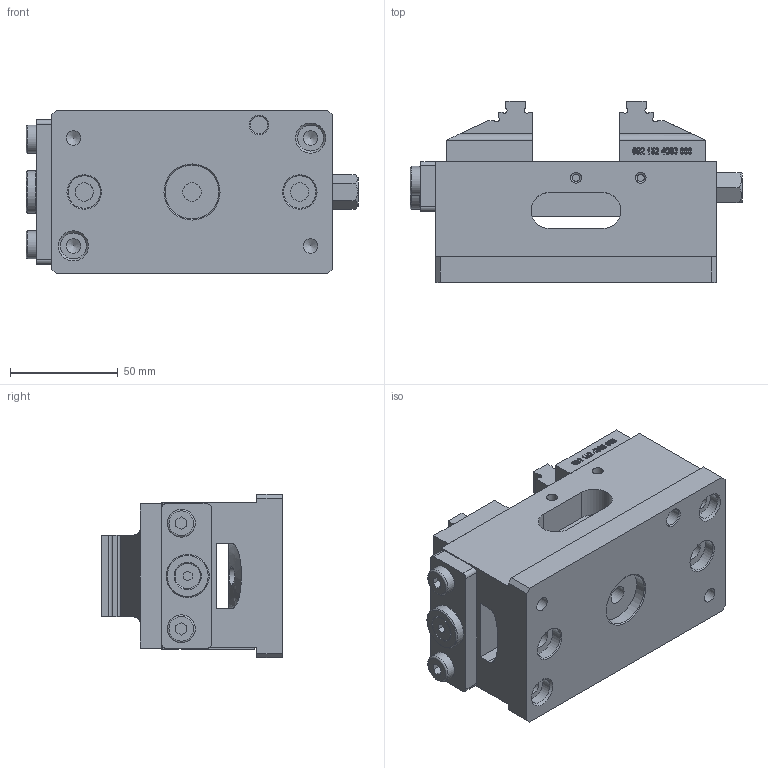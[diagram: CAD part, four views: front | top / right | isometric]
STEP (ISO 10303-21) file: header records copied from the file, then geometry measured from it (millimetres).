
FILE_DESCRIPTION (( 'STEP AP214' ), '1' );
FILE_NAME ('3D-6921528053055.STEP', '2023-12-01T10:38:10', ( '' ), ( '' ), 'SwSTEP 2.0', 'SolidWorks 2021', '' );
FILE_SCHEMA (( 'AUTOMOTIVE_DESIGN' ));
Length unit declared in the file: millimetre
Products named in the file (4): 3D-6921528053055; 3D-6921524070000; 3D-692152805x055; 3D-6921524080000
Assembly tree (3 placements, depth 2):
  3D-6921528053055
    3D-692152805x055
    3D-6921524070000
    3D-6921524080000
Bounding box: 154 x 84 x 76 mm (x, y, z)
Volume: 545641.1 mm3; surface area: 82356.2 mm2
Topology: 3 solids, 3 shells, 1258 faces, 3307 edges, 2195 vertices
Faces by surface type: plane 677, bspline 513, cylinder 44, cone 22, torus 2
Full cylindrical faces by diameter (mm): 4.2 x4, 5 x2, 6.8 x4, 8 x1, 8.5 x3, 11.6 x1, 12 x2, 13 x2, 15 x2, 17.5 x1, 20 x1, 25 x1
Entity records: 64749 total; most frequent: CARTESIAN_POINT 37093, ORIENTED_EDGE 6480, DIRECTION 3809, EDGE_CURVE 3240, VERTEX_POINT 2176, VECTOR 2097, LINE 2097, EDGE_LOOP 1458
